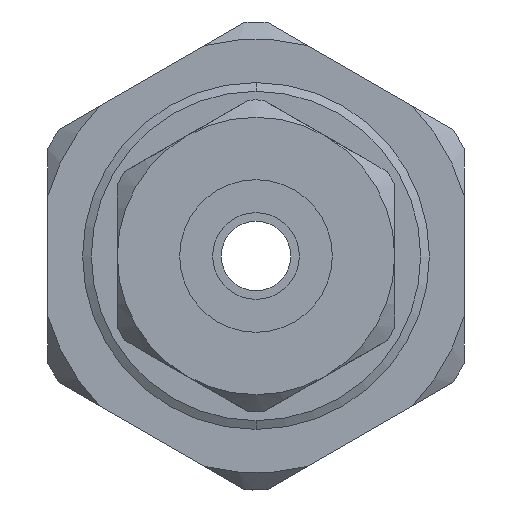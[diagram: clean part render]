
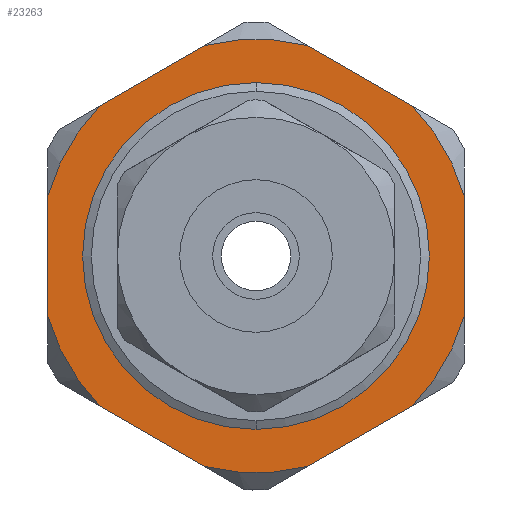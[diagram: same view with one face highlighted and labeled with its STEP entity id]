
A CAD part, front view. The second image highlights one B-rep face of the part: STEP entity #23263.
In plain terms, the highlighted planar face has unit normal (0, -1, 0).
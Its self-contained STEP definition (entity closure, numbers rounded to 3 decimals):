
#45 = DIRECTION ( 'NONE',  ( 0., -1., 0. ) ) ;
#485 = EDGE_CURVE ( 'NONE', #9686, #24043, #9570, .T. ) ;
#789 = VERTEX_POINT ( 'NONE', #19703 ) ;
#1110 = VERTEX_POINT ( 'NONE', #6214 ) ;
#1228 = VECTOR ( 'NONE', #27497, 1000. ) ;
#1896 = VERTEX_POINT ( 'NONE', #7827 ) ;
#2364 = EDGE_CURVE ( 'NONE', #1110, #789, #2516, .T. ) ;
#2516 = CIRCLE ( 'NONE', #16619, 9.25 ) ;
#2574 = VERTEX_POINT ( 'NONE', #18350 ) ;
#2725 = VERTEX_POINT ( 'NONE', #25841 ) ;
#3001 = ORIENTED_EDGE ( 'NONE', *, *, #8925, .F. ) ;
#3810 = EDGE_CURVE ( 'NONE', #21123, #12712, #19756, .T. ) ;
#3812 = PLANE ( 'NONE',  #20014 ) ;
#4393 = ORIENTED_EDGE ( 'NONE', *, *, #29232, .F. ) ;
#4525 = VECTOR ( 'NONE', #24022, 1000. ) ;
#5334 = EDGE_CURVE ( 'NONE', #2725, #22058, #13797, .T. ) ;
#5681 = CARTESIAN_POINT ( 'NONE',  ( -12.322, 5.283, 36.858 ) ) ;
#6116 = CARTESIAN_POINT ( 'NONE',  ( -9.353, 5.283, 49. ) ) ;
#6214 = CARTESIAN_POINT ( 'NONE',  ( -13.978, 5.283, 57.011 ) ) ;
#6317 = EDGE_CURVE ( 'NONE', #1896, #9686, #20345, .T. ) ;
#6462 = EDGE_CURVE ( 'NONE', #17523, #21123, #15522, .T. ) ;
#6530 = CARTESIAN_POINT ( 'NONE',  ( 2.647, 5.283, 45.5 ) ) ;
#6773 = DIRECTION ( 'NONE',  ( 0., 0., -1. ) ) ;
#6878 = DIRECTION ( 'NONE',  ( 0., 1., 0. ) ) ;
#7625 = DIRECTION ( 'NONE',  ( 0., 1., 0. ) ) ;
#7827 = CARTESIAN_POINT ( 'NONE',  ( -0.322, 5.283, 57.642 ) ) ;
#7866 = VERTEX_POINT ( 'NONE', #24969 ) ;
#7970 = CARTESIAN_POINT ( 'NONE',  ( 2.647, 5.283, 42.815 ) ) ;
#8319 = VERTEX_POINT ( 'NONE', #25513 ) ;
#8463 = CARTESIAN_POINT ( 'NONE',  ( -9.353, 5.283, 49. ) ) ;
#8544 = DIRECTION ( 'NONE',  ( -0.5, 0., 0.866 ) ) ;
#8672 = DIRECTION ( 'NONE',  ( 0., 1., 0. ) ) ;
#8702 = EDGE_CURVE ( 'NONE', #16395, #1896, #15401, .T. ) ;
#8925 = EDGE_CURVE ( 'NONE', #7866, #2725, #23476, .T. ) ;
#9196 = VECTOR ( 'NONE', #28114, 1000. ) ;
#9302 = CARTESIAN_POINT ( 'NONE',  ( -9.353, 5.283, 49. ) ) ;
#9570 = LINE ( 'NONE', #7970, #15137 ) ;
#9686 = VERTEX_POINT ( 'NONE', #26681 ) ;
#10160 = FACE_BOUND ( 'NONE', #29139, .T. ) ;
#10164 = DIRECTION ( 'NONE',  ( 0., 1., 0. ) ) ;
#10865 = DIRECTION ( 'NONE',  ( -0.5, 0., 0.866 ) ) ;
#11402 = ORIENTED_EDGE ( 'NONE', *, *, #19276, .F. ) ;
#11682 = DIRECTION ( 'NONE',  ( -0.5, 0., 0.866 ) ) ;
#11916 = VECTOR ( 'NONE', #19057, 1000. ) ;
#12615 = ORIENTED_EDGE ( 'NONE', *, *, #23027, .F. ) ;
#12712 = VERTEX_POINT ( 'NONE', #5681 ) ;
#12952 = AXIS2_PLACEMENT_3D ( 'NONE', #21057, #6878, #23451 ) ;
#12958 = CARTESIAN_POINT ( 'NONE',  ( -9.353, 5.283, 49. ) ) ;
#13559 = EDGE_CURVE ( 'NONE', #789, #1110, #22201, .T. ) ;
#13702 = AXIS2_PLACEMENT_3D ( 'NONE', #14194, #45, #16602 ) ;
#13797 = LINE ( 'NONE', #22712, #1228 ) ;
#14194 = CARTESIAN_POINT ( 'NONE',  ( -9.353, 5.283, 49. ) ) ;
#14219 = ORIENTED_EDGE ( 'NONE', *, *, #485, .F. ) ;
#14952 = ORIENTED_EDGE ( 'NONE', *, *, #3810, .F. ) ;
#15081 = CARTESIAN_POINT ( 'NONE',  ( -6.384, 5.283, 36.858 ) ) ;
#15137 = VECTOR ( 'NONE', #6773, 1000. ) ;
#15369 = DIRECTION ( 'NONE',  ( -0.5, 0., 0.866 ) ) ;
#15401 = LINE ( 'NONE', #27641, #27173 ) ;
#15522 = LINE ( 'NONE', #30378, #9196 ) ;
#16047 = CIRCLE ( 'NONE', #21007, 12.5 ) ;
#16294 = ORIENTED_EDGE ( 'NONE', *, *, #22605, .F. ) ;
#16335 = ORIENTED_EDGE ( 'NONE', *, *, #5334, .F. ) ;
#16395 = VERTEX_POINT ( 'NONE', #18930 ) ;
#16427 = ORIENTED_EDGE ( 'NONE', *, *, #6462, .F. ) ;
#16602 = DIRECTION ( 'NONE',  ( -0.5, 0., 0.866 ) ) ;
#16619 = AXIS2_PLACEMENT_3D ( 'NONE', #12958, #29476, #15369 ) ;
#17523 = VERTEX_POINT ( 'NONE', #26141 ) ;
#18350 = CARTESIAN_POINT ( 'NONE',  ( -21.353, 5.283, 45.5 ) ) ;
#18725 = AXIS2_PLACEMENT_3D ( 'NONE', #6116, #22724, #8544 ) ;
#18930 = CARTESIAN_POINT ( 'NONE',  ( -6.384, 5.283, 61.142 ) ) ;
#18997 = CARTESIAN_POINT ( 'NONE',  ( -12.322, 5.283, 61.142 ) ) ;
#19057 = DIRECTION ( 'NONE',  ( 0., 0., 1. ) ) ;
#19276 = EDGE_CURVE ( 'NONE', #24043, #17523, #21304, .T. ) ;
#19669 = AXIS2_PLACEMENT_3D ( 'NONE', #8463, #24992, #10865 ) ;
#19703 = CARTESIAN_POINT ( 'NONE',  ( -4.728, 5.283, 40.989 ) ) ;
#19756 = CIRCLE ( 'NONE', #19669, 12.5 ) ;
#20014 = AXIS2_PLACEMENT_3D ( 'NONE', #22867, #8672, #25205 ) ;
#20040 = EDGE_CURVE ( 'NONE', #12712, #8319, #28931, .T. ) ;
#20345 = CIRCLE ( 'NONE', #18725, 12.5 ) ;
#20634 = ORIENTED_EDGE ( 'NONE', *, *, #6317, .F. ) ;
#21007 = AXIS2_PLACEMENT_3D ( 'NONE', #9302, #25813, #11682 ) ;
#21057 = CARTESIAN_POINT ( 'NONE',  ( -9.353, 5.283, 49. ) ) ;
#21123 = VERTEX_POINT ( 'NONE', #15081 ) ;
#21304 = CIRCLE ( 'NONE', #12952, 12.5 ) ;
#21435 = CARTESIAN_POINT ( 'NONE',  ( -21.353, 5.283, 55.185 ) ) ;
#21800 = CARTESIAN_POINT ( 'NONE',  ( -9.353, 5.283, 49. ) ) ;
#21978 = FACE_OUTER_BOUND ( 'NONE', #26919, .T. ) ;
#22058 = VERTEX_POINT ( 'NONE', #18997 ) ;
#22201 = CIRCLE ( 'NONE', #13702, 9.25 ) ;
#22605 = EDGE_CURVE ( 'NONE', #2574, #7866, #24501, .T. ) ;
#22712 = CARTESIAN_POINT ( 'NONE',  ( -15.353, 5.283, 59.392 ) ) ;
#22724 = DIRECTION ( 'NONE',  ( 0., 1., 0. ) ) ;
#22771 = CIRCLE ( 'NONE', #29069, 12.5 ) ;
#22791 = AXIS2_PLACEMENT_3D ( 'NONE', #21800, #7625, #24170 ) ;
#22867 = CARTESIAN_POINT ( 'NONE',  ( -14.308, 5.283, 32.283 ) ) ;
#23027 = EDGE_CURVE ( 'NONE', #22058, #16395, #22771, .T. ) ;
#23263 = ADVANCED_FACE ( 'NONE', ( #10160, #21978 ), #3812, .F. ) ;
#23451 = DIRECTION ( 'NONE',  ( -0.5, 0., 0.866 ) ) ;
#23476 = CIRCLE ( 'NONE', #22791, 12.5 ) ;
#24022 = DIRECTION ( 'NONE',  ( -0.866, 0., 0.5 ) ) ;
#24043 = VERTEX_POINT ( 'NONE', #6530 ) ;
#24170 = DIRECTION ( 'NONE',  ( -0.5, 0., 0.866 ) ) ;
#24296 = CARTESIAN_POINT ( 'NONE',  ( -9.353, 5.283, 49. ) ) ;
#24501 = LINE ( 'NONE', #21435, #11916 ) ;
#24969 = CARTESIAN_POINT ( 'NONE',  ( -21.353, 5.283, 52.5 ) ) ;
#24992 = DIRECTION ( 'NONE',  ( 0., 1., 0. ) ) ;
#25205 = DIRECTION ( 'NONE',  ( -0.5, 0., 0.866 ) ) ;
#25300 = DIRECTION ( 'NONE',  ( 0.866, 0., -0.5 ) ) ;
#25513 = CARTESIAN_POINT ( 'NONE',  ( -18.384, 5.283, 40.358 ) ) ;
#25812 = ORIENTED_EDGE ( 'NONE', *, *, #8702, .F. ) ;
#25813 = DIRECTION ( 'NONE',  ( 0., 1., 0. ) ) ;
#25841 = CARTESIAN_POINT ( 'NONE',  ( -18.384, 5.283, 57.642 ) ) ;
#26141 = CARTESIAN_POINT ( 'NONE',  ( -0.322, 5.283, 40.358 ) ) ;
#26644 = DIRECTION ( 'NONE',  ( -0.5, 0., 0.866 ) ) ;
#26681 = CARTESIAN_POINT ( 'NONE',  ( 2.647, 5.283, 52.5 ) ) ;
#26919 = EDGE_LOOP ( 'NONE', ( #12615, #16335, #3001, #16294, #4393, #27888, #14952, #16427, #11402, #14219, #20634, #25812 ) ) ;
#27173 = VECTOR ( 'NONE', #25300, 1000. ) ;
#27497 = DIRECTION ( 'NONE',  ( 0.866, 0., 0.5 ) ) ;
#27641 = CARTESIAN_POINT ( 'NONE',  ( 2.003, 5.283, 56.3 ) ) ;
#27888 = ORIENTED_EDGE ( 'NONE', *, *, #20040, .F. ) ;
#28114 = DIRECTION ( 'NONE',  ( -0.866, 0., -0.5 ) ) ;
#28444 = ORIENTED_EDGE ( 'NONE', *, *, #13559, .F. ) ;
#28535 = CARTESIAN_POINT ( 'NONE',  ( -20.709, 5.283, 41.7 ) ) ;
#28792 = ORIENTED_EDGE ( 'NONE', *, *, #2364, .F. ) ;
#28931 = LINE ( 'NONE', #28535, #4525 ) ;
#29069 = AXIS2_PLACEMENT_3D ( 'NONE', #24296, #10164, #26644 ) ;
#29139 = EDGE_LOOP ( 'NONE', ( #28792, #28444 ) ) ;
#29232 = EDGE_CURVE ( 'NONE', #8319, #2574, #16047, .T. ) ;
#29476 = DIRECTION ( 'NONE',  ( 0., -1., 0. ) ) ;
#30378 = CARTESIAN_POINT ( 'NONE',  ( -3.353, 5.283, 38.608 ) ) ;
